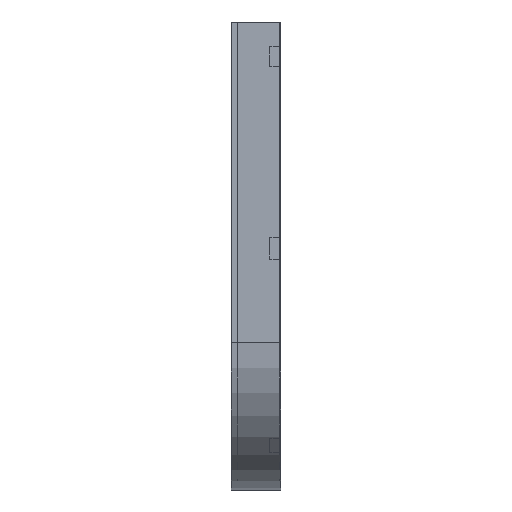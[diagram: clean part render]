
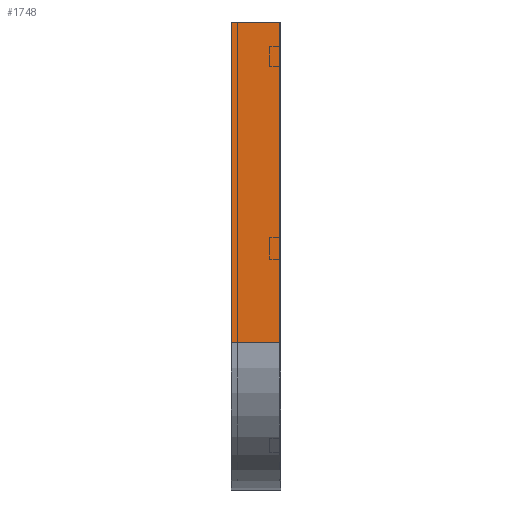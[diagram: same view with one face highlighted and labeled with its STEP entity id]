
A CAD part, left-side view. The second image highlights one B-rep face of the part: STEP entity #1748.
In plain terms, the highlighted planar face has unit normal (-1, 0, 0).
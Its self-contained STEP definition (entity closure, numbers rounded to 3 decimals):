
#31 = DIRECTION ( 'NONE',  ( 0., -1., 0. ) ) ;
#145 = CARTESIAN_POINT ( 'NONE',  ( 0., 0., -650. ) ) ;
#217 = DIRECTION ( 'NONE',  ( 0., 0., -1. ) ) ;
#223 = DIRECTION ( 'NONE',  ( 0., -1., 0. ) ) ;
#337 = EDGE_CURVE ( 'NONE', #1420, #810, #1492, .T. ) ;
#349 = VECTOR ( 'NONE', #223, 1000. ) ;
#413 = ORIENTED_EDGE ( 'NONE', *, *, #337, .T. ) ;
#462 = CARTESIAN_POINT ( 'NONE',  ( 0., 100., 0. ) ) ;
#463 = VERTEX_POINT ( 'NONE', #462 ) ;
#541 = CARTESIAN_POINT ( 'NONE',  ( 0., 100., 0. ) ) ;
#570 = EDGE_CURVE ( 'NONE', #463, #1077, #1046, .T. ) ;
#688 = DIRECTION ( 'NONE',  ( 1., 0., 0. ) ) ;
#696 = DIRECTION ( 'NONE',  ( 0., 0., -1. ) ) ;
#751 = DIRECTION ( 'NONE',  ( 0., 0., -1. ) ) ;
#810 = VERTEX_POINT ( 'NONE', #145 ) ;
#828 = FACE_OUTER_BOUND ( 'NONE', #1118, .T. ) ;
#949 = EDGE_CURVE ( 'NONE', #463, #1420, #1226, .T. ) ;
#1000 = CARTESIAN_POINT ( 'NONE',  ( 0., 0., -650. ) ) ;
#1015 = CARTESIAN_POINT ( 'NONE',  ( 0., 0., 0. ) ) ;
#1046 = LINE ( 'NONE', #1508, #349 ) ;
#1075 = AXIS2_PLACEMENT_3D ( 'NONE', #1941, #688, #696 ) ;
#1077 = VERTEX_POINT ( 'NONE', #1336 ) ;
#1094 = VECTOR ( 'NONE', #217, 1000. ) ;
#1118 = EDGE_LOOP ( 'NONE', ( #1885, #2037, #1860, #413 ) ) ;
#1226 = LINE ( 'NONE', #541, #1094 ) ;
#1336 = CARTESIAN_POINT ( 'NONE',  ( 0., 0., 0. ) ) ;
#1420 = VERTEX_POINT ( 'NONE', #2000 ) ;
#1482 = VECTOR ( 'NONE', #31, 1000. ) ;
#1492 = LINE ( 'NONE', #1000, #1482 ) ;
#1508 = CARTESIAN_POINT ( 'NONE',  ( 0., 0., 0. ) ) ;
#1748 = ADVANCED_FACE ( 'NONE', ( #828 ), #1783, .F. ) ;
#1783 = PLANE ( 'NONE',  #1075 ) ;
#1794 = LINE ( 'NONE', #1015, #1985 ) ;
#1822 = EDGE_CURVE ( 'NONE', #1077, #810, #1794, .T. ) ;
#1860 = ORIENTED_EDGE ( 'NONE', *, *, #949, .T. ) ;
#1885 = ORIENTED_EDGE ( 'NONE', *, *, #1822, .F. ) ;
#1941 = CARTESIAN_POINT ( 'NONE',  ( 0., 0., 0. ) ) ;
#1985 = VECTOR ( 'NONE', #751, 1000. ) ;
#2000 = CARTESIAN_POINT ( 'NONE',  ( 0., 100., -650. ) ) ;
#2037 = ORIENTED_EDGE ( 'NONE', *, *, #570, .F. ) ;
